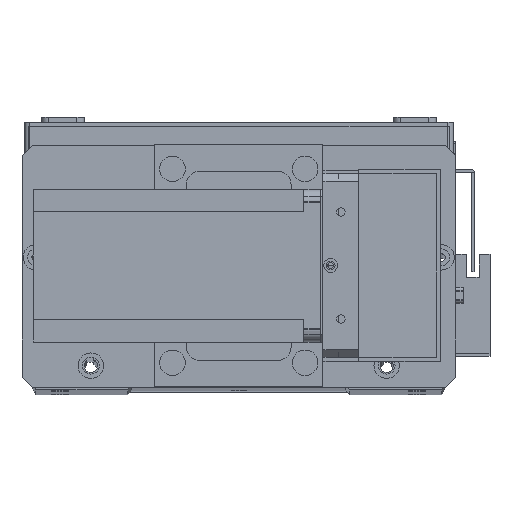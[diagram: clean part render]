
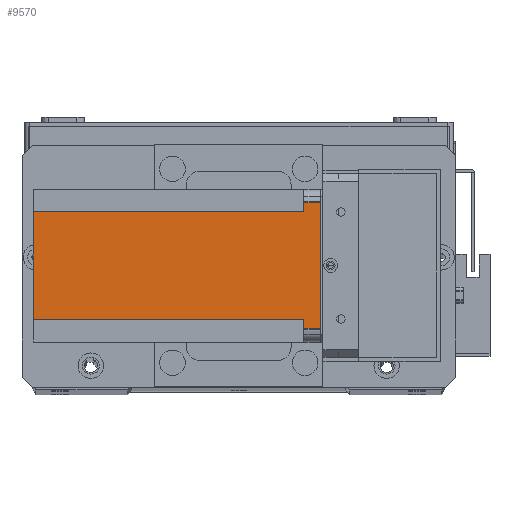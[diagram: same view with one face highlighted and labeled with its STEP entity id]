
A CAD part, top view. The second image highlights one B-rep face of the part: STEP entity #9570.
In plain terms, the highlighted planar face has unit normal (0, 0, 1) as drawn and (-1, 0, 0) by its records, which use the part's own axes.
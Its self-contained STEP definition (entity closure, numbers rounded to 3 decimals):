
#55 = CARTESIAN_POINT ( 'NONE',  ( 0., 5., -6.5 ) ) ;
#1312 = DIRECTION ( 'NONE',  ( 0., -1., 0. ) ) ;
#1323 = DIRECTION ( 'NONE',  ( -1., 0., 0. ) ) ;
#1681 = VECTOR ( 'NONE', #23527, 1000. ) ;
#1809 = DIRECTION ( 'NONE',  ( 0., 1., 0. ) ) ;
#1844 = CARTESIAN_POINT ( 'NONE',  ( 0., 60., -6.5 ) ) ;
#1923 = VERTEX_POINT ( 'NONE', #15059 ) ;
#1948 = ORIENTED_EDGE ( 'NONE', *, *, #10689, .F. ) ;
#2134 = PLANE ( 'NONE',  #17567 ) ;
#2149 = CARTESIAN_POINT ( 'NONE',  ( 0., 51., -112.5 ) ) ;
#2284 = ORIENTED_EDGE ( 'NONE', *, *, #10914, .T. ) ;
#2606 = ORIENTED_EDGE ( 'NONE', *, *, #9863, .F. ) ;
#2718 = CARTESIAN_POINT ( 'NONE',  ( 0., 51., -112.5 ) ) ;
#3006 = ORIENTED_EDGE ( 'NONE', *, *, #10976, .T. ) ;
#3192 = ORIENTED_EDGE ( 'NONE', *, *, #11494, .F. ) ;
#3658 = ORIENTED_EDGE ( 'NONE', *, *, #11635, .F. ) ;
#4015 = ORIENTED_EDGE ( 'NONE', *, *, #11890, .T. ) ;
#4207 = CARTESIAN_POINT ( 'NONE',  ( 0., 0., -112.5 ) ) ;
#4358 = LINE ( 'NONE', #23806, #1681 ) ;
#4692 = ORIENTED_EDGE ( 'NONE', *, *, #12085, .F. ) ;
#4738 = VECTOR ( 'NONE', #21523, 1000. ) ;
#4771 = CARTESIAN_POINT ( 'NONE',  ( 0., 5., 0. ) ) ;
#4896 = DIRECTION ( 'NONE',  ( 0., 0., 1. ) ) ;
#6281 = LINE ( 'NONE', #22435, #14651 ) ;
#7427 = VERTEX_POINT ( 'NONE', #8262 ) ;
#8262 = CARTESIAN_POINT ( 'NONE',  ( 0., 9., -112.5 ) ) ;
#8461 = VERTEX_POINT ( 'NONE', #22390 ) ;
#8631 = DIRECTION ( 'NONE',  ( 0., 0., -1. ) ) ;
#9570 = ADVANCED_FACE ( 'NONE', ( #11466 ), #2134, .T. ) ;
#9863 = EDGE_CURVE ( 'NONE', #10041, #29736, #6281, .T. ) ;
#10041 = VERTEX_POINT ( 'NONE', #15160 ) ;
#10134 = VECTOR ( 'NONE', #4896, 1000. ) ;
#10382 = LINE ( 'NONE', #22326, #4738 ) ;
#10689 = EDGE_CURVE ( 'NONE', #26716, #1923, #12568, .T. ) ;
#10914 = EDGE_CURVE ( 'NONE', #26716, #29736, #4358, .T. ) ;
#10976 = EDGE_CURVE ( 'NONE', #10041, #16564, #10382, .T. ) ;
#11466 = FACE_OUTER_BOUND ( 'NONE', #12015, .T. ) ;
#11494 = EDGE_CURVE ( 'NONE', #8461, #16564, #16908, .T. ) ;
#11635 = EDGE_CURVE ( 'NONE', #14910, #8461, #16516, .T. ) ;
#11805 = VECTOR ( 'NONE', #30614, 1000. ) ;
#11890 = EDGE_CURVE ( 'NONE', #14910, #7427, #22582, .T. ) ;
#12015 = EDGE_LOOP ( 'NONE', ( #1948, #2284, #2606, #3006, #3192, #3658, #4015, #4692 ) ) ;
#12085 = EDGE_CURVE ( 'NONE', #1923, #7427, #17700, .T. ) ;
#12568 = LINE ( 'NONE', #31071, #11805 ) ;
#12757 = CARTESIAN_POINT ( 'NONE',  ( 0., 55., -6.5 ) ) ;
#13033 = CARTESIAN_POINT ( 'NONE',  ( 0., 0., -112.5 ) ) ;
#14617 = VECTOR ( 'NONE', #1809, 1000. ) ;
#14651 = VECTOR ( 'NONE', #22403, 1000. ) ;
#14910 = VERTEX_POINT ( 'NONE', #2149 ) ;
#15059 = CARTESIAN_POINT ( 'NONE',  ( 0., 9., -6.5 ) ) ;
#15160 = CARTESIAN_POINT ( 'NONE',  ( 0., 55., 0. ) ) ;
#15663 = DIRECTION ( 'NONE',  ( 0., -1., 0. ) ) ;
#16145 = VECTOR ( 'NONE', #15663, 1000. ) ;
#16516 = LINE ( 'NONE', #2718, #10134 ) ;
#16564 = VERTEX_POINT ( 'NONE', #12757 ) ;
#16908 = LINE ( 'NONE', #1844, #14617 ) ;
#17567 = AXIS2_PLACEMENT_3D ( 'NONE', #4207, #1323, #1312 ) ;
#17700 = LINE ( 'NONE', #21906, #30430 ) ;
#21523 = DIRECTION ( 'NONE',  ( 0., 0., -1. ) ) ;
#21906 = CARTESIAN_POINT ( 'NONE',  ( 0., 9., -112.5 ) ) ;
#22326 = CARTESIAN_POINT ( 'NONE',  ( 0., 55., -112.5 ) ) ;
#22390 = CARTESIAN_POINT ( 'NONE',  ( 0., 51., -6.5 ) ) ;
#22403 = DIRECTION ( 'NONE',  ( 0., -1., 0. ) ) ;
#22435 = CARTESIAN_POINT ( 'NONE',  ( 0., 0., 0. ) ) ;
#22582 = LINE ( 'NONE', #13033, #16145 ) ;
#23527 = DIRECTION ( 'NONE',  ( 0., 0., 1. ) ) ;
#23806 = CARTESIAN_POINT ( 'NONE',  ( 0., 5., -112.5 ) ) ;
#26716 = VERTEX_POINT ( 'NONE', #55 ) ;
#29736 = VERTEX_POINT ( 'NONE', #4771 ) ;
#30430 = VECTOR ( 'NONE', #8631, 1000. ) ;
#30614 = DIRECTION ( 'NONE',  ( 0., 1., 0. ) ) ;
#31071 = CARTESIAN_POINT ( 'NONE',  ( 0., 0., -6.5 ) ) ;
